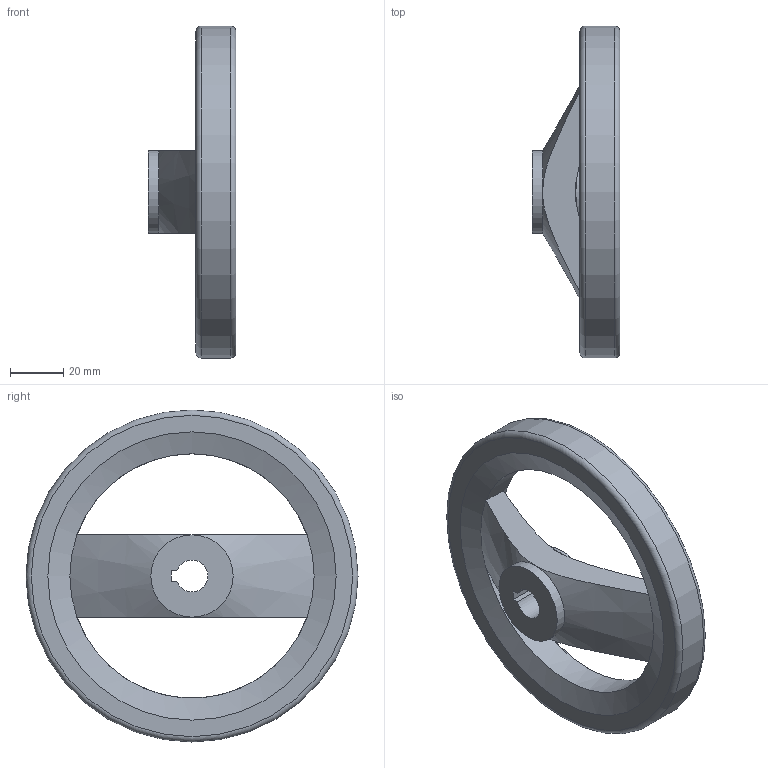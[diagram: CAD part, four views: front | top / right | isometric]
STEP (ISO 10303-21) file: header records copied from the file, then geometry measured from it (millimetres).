
FILE_DESCRIPTION( ( 'STEP AP203' ), '1' );
FILE_NAME( 'C:/Temp/Ganter_Step_05_03_2020/data/1_3/gn_324/gn_324_k/gn_324_k_a/Handwheel, matt black GN 324-125-K12-A.stp', '2020-03-05T10:32:59', ( 'License CC BY-ND 4.0' ), ( 'CADENAS' ), ' ', 'PARTsolutions', ' ' );
FILE_SCHEMA( ( 'CONFIG_CONTROL_DESIGN' ) );
Length unit declared in the file: millimetre
Products named in the file (1): _Handwheel, matt black GN 324-125-K12-A
Bounding box: 33 x 125 x 125 mm (x, y, z)
Volume: 113547.3 mm3; surface area: 28435 mm2
Topology: 1 solids, 1 shells, 22 faces, 52 edges, 30 vertices
Faces by surface type: plane 9, cone 6, cylinder 5, torus 2
Full cylindrical faces by diameter (mm): 31 x2, 92 x1, 125 x1
Entity records: 756 total; most frequent: CARTESIAN_POINT 235, DIRECTION 102, ORIENTED_EDGE 86, AXIS2_PLACEMENT_3D 44, EDGE_CURVE 43, EDGE_LOOP 34, VERTEX_POINT 29, FACE_OUTER_BOUND 28
